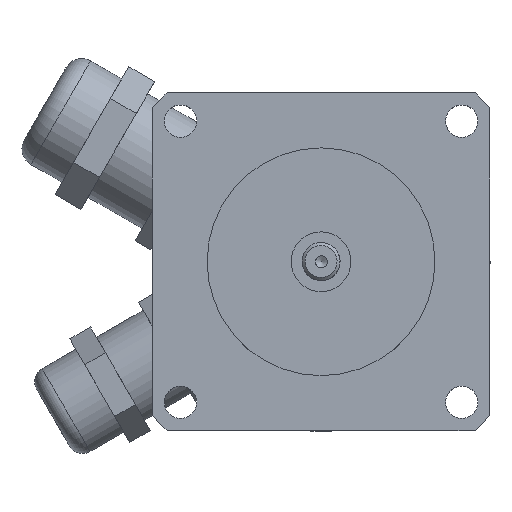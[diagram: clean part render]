
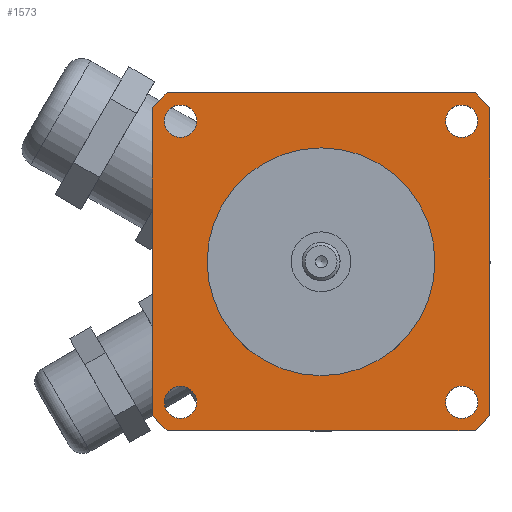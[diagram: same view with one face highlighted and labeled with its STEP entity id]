
A CAD part, top view. The second image highlights one B-rep face of the part: STEP entity #1573.
In plain terms, the highlighted planar face has unit normal (0, 0, 1).
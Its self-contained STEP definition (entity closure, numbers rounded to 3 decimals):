
#1205=CARTESIAN_POINT('',(19.05,0.,42.7));
#1206=VERTEX_POINT('',#1205);
#1207=CARTESIAN_POINT('',(0.,0.,42.7));
#1208=DIRECTION('',(0.0,0.0,-1.0));
#1209=DIRECTION('',(-1.0,0.0,0.0));
#1210=AXIS2_PLACEMENT_3D('',#1207,#1208,#1209);
#1211=CIRCLE('',#1210,19.05);
#1212=EDGE_CURVE('',#1206,#1206,#1211,.T.);
#1255=CARTESIAN_POINT('',(26.211,23.511,42.7));
#1256=VERTEX_POINT('',#1255);
#1257=CARTESIAN_POINT('',(23.511,23.511,42.7));
#1258=DIRECTION('',(0.0,0.0,-1.0));
#1259=DIRECTION('',(-1.0,0.0,0.0));
#1260=AXIS2_PLACEMENT_3D('',#1257,#1258,#1259);
#1261=CIRCLE('',#1260,2.7);
#1262=EDGE_CURVE('',#1256,#1256,#1261,.T.);
#1275=CARTESIAN_POINT('',(26.211,-23.511,42.7));
#1276=VERTEX_POINT('',#1275);
#1277=CARTESIAN_POINT('',(23.511,-23.511,42.7));
#1278=DIRECTION('',(0.0,0.0,-1.0));
#1279=DIRECTION('',(-1.0,0.0,0.0));
#1280=AXIS2_PLACEMENT_3D('',#1277,#1278,#1279);
#1281=CIRCLE('',#1280,2.7);
#1282=EDGE_CURVE('',#1276,#1276,#1281,.T.);
#1295=CARTESIAN_POINT('',(-20.811,23.511,42.7));
#1296=VERTEX_POINT('',#1295);
#1297=CARTESIAN_POINT('',(-23.511,23.511,42.7));
#1298=DIRECTION('',(0.0,0.0,-1.0));
#1299=DIRECTION('',(-1.0,0.0,0.0));
#1300=AXIS2_PLACEMENT_3D('',#1297,#1298,#1299);
#1301=CIRCLE('',#1300,2.7);
#1302=EDGE_CURVE('',#1296,#1296,#1301,.T.);
#1315=CARTESIAN_POINT('',(-20.811,-23.511,42.7));
#1316=VERTEX_POINT('',#1315);
#1317=CARTESIAN_POINT('',(-23.511,-23.511,42.7));
#1318=DIRECTION('',(0.0,0.0,-1.0));
#1319=DIRECTION('',(-1.0,0.0,0.0));
#1320=AXIS2_PLACEMENT_3D('',#1317,#1318,#1319);
#1321=CIRCLE('',#1320,2.7);
#1322=EDGE_CURVE('',#1316,#1316,#1321,.T.);
#1335=CARTESIAN_POINT('',(25.75,28.25,42.7));
#1336=VERTEX_POINT('',#1335);
#1337=CARTESIAN_POINT('',(28.25,25.75,42.7));
#1338=VERTEX_POINT('',#1337);
#1339=CARTESIAN_POINT('',(25.75,28.25,42.7));
#1340=DIRECTION('',(0.707,-0.707,0.0));
#1341=VECTOR('',#1340,3.536);
#1342=LINE('',#1339,#1341);
#1343=EDGE_CURVE('',#1336,#1338,#1342,.T.);
#1366=CARTESIAN_POINT('',(28.25,-25.75,42.7));
#1367=VERTEX_POINT('',#1366);
#1368=CARTESIAN_POINT('',(28.25,25.75,42.7));
#1369=DIRECTION('',(0.0,-1.0,0.0));
#1370=VECTOR('',#1369,51.5);
#1371=LINE('',#1368,#1370);
#1372=EDGE_CURVE('',#1338,#1367,#1371,.T.);
#1393=CARTESIAN_POINT('',(25.75,-28.25,42.7));
#1394=VERTEX_POINT('',#1393);
#1395=CARTESIAN_POINT('',(28.25,-25.75,42.7));
#1396=DIRECTION('',(-0.707,-0.707,0.0));
#1397=VECTOR('',#1396,3.536);
#1398=LINE('',#1395,#1397);
#1399=EDGE_CURVE('',#1367,#1394,#1398,.T.);
#1417=CARTESIAN_POINT('',(-25.75,-28.25,42.7));
#1418=VERTEX_POINT('',#1417);
#1419=CARTESIAN_POINT('',(25.75,-28.25,42.7));
#1420=DIRECTION('',(-1.0,0.0,0.0));
#1421=VECTOR('',#1420,51.5);
#1422=LINE('',#1419,#1421);
#1423=EDGE_CURVE('',#1394,#1418,#1422,.T.);
#1443=CARTESIAN_POINT('',(-28.25,-25.75,42.7));
#1444=VERTEX_POINT('',#1443);
#1445=CARTESIAN_POINT('',(-25.75,-28.25,42.7));
#1446=DIRECTION('',(-0.707,0.707,0.0));
#1447=VECTOR('',#1446,3.536);
#1448=LINE('',#1445,#1447);
#1449=EDGE_CURVE('',#1418,#1444,#1448,.T.);
#1467=CARTESIAN_POINT('',(-28.25,25.75,42.7));
#1468=VERTEX_POINT('',#1467);
#1469=CARTESIAN_POINT('',(-28.25,-25.75,42.7));
#1470=DIRECTION('',(0.0,1.0,0.0));
#1471=VECTOR('',#1470,51.5);
#1472=LINE('',#1469,#1471);
#1473=EDGE_CURVE('',#1444,#1468,#1472,.T.);
#1493=CARTESIAN_POINT('',(-25.75,28.25,42.7));
#1494=VERTEX_POINT('',#1493);
#1495=CARTESIAN_POINT('',(-28.25,25.75,42.7));
#1496=DIRECTION('',(0.707,0.707,0.0));
#1497=VECTOR('',#1496,3.536);
#1498=LINE('',#1495,#1497);
#1499=EDGE_CURVE('',#1468,#1494,#1498,.T.);
#1517=CARTESIAN_POINT('',(-25.75,28.25,42.7));
#1518=DIRECTION('',(1.0,0.0,0.0));
#1519=VECTOR('',#1518,51.5);
#1520=LINE('',#1517,#1519);
#1521=EDGE_CURVE('',#1494,#1336,#1520,.T.);
#1543=CARTESIAN_POINT('',(0.,0.,42.7));
#1544=DIRECTION('',(0.0,0.0,1.0));
#1545=DIRECTION('',(1.0,0.0,0.0));
#1546=AXIS2_PLACEMENT_3D('',#1543,#1544,#1545);
#1547=PLANE('',#1546);
#1548=ORIENTED_EDGE('',*,*,#1343,.F.);
#1549=ORIENTED_EDGE('',*,*,#1521,.F.);
#1550=ORIENTED_EDGE('',*,*,#1499,.F.);
#1551=ORIENTED_EDGE('',*,*,#1473,.F.);
#1552=ORIENTED_EDGE('',*,*,#1449,.F.);
#1553=ORIENTED_EDGE('',*,*,#1423,.F.);
#1554=ORIENTED_EDGE('',*,*,#1399,.F.);
#1555=ORIENTED_EDGE('',*,*,#1372,.F.);
#1556=EDGE_LOOP('',(#1548,#1549,#1550,#1551,#1552,#1553,#1554,#1555));
#1557=FACE_OUTER_BOUND('',#1556,.T.);
#1558=ORIENTED_EDGE('',*,*,#1212,.T.);
#1559=EDGE_LOOP('',(#1558));
#1560=FACE_BOUND('',#1559,.T.);
#1561=ORIENTED_EDGE('',*,*,#1262,.T.);
#1562=EDGE_LOOP('',(#1561));
#1563=FACE_BOUND('',#1562,.T.);
#1564=ORIENTED_EDGE('',*,*,#1282,.T.);
#1565=EDGE_LOOP('',(#1564));
#1566=FACE_BOUND('',#1565,.T.);
#1567=ORIENTED_EDGE('',*,*,#1302,.T.);
#1568=EDGE_LOOP('',(#1567));
#1569=FACE_BOUND('',#1568,.T.);
#1570=ORIENTED_EDGE('',*,*,#1322,.T.);
#1571=EDGE_LOOP('',(#1570));
#1572=FACE_BOUND('',#1571,.T.);
#1573=ADVANCED_FACE('',(#1557,#1560,#1563,#1566,#1569,#1572),#1547,.T.);
